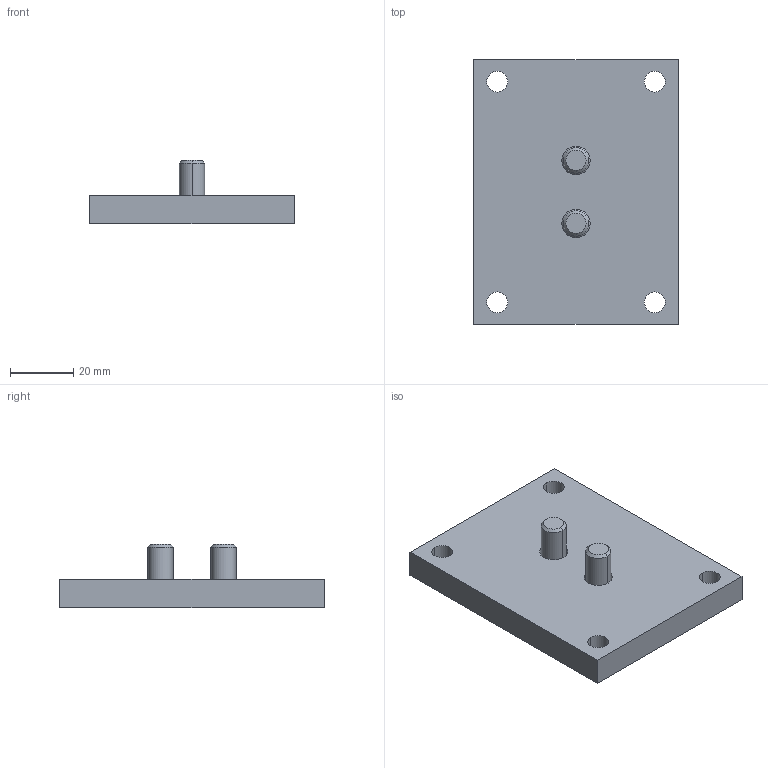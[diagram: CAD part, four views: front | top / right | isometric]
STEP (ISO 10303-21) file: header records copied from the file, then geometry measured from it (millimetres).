
FILE_DESCRIPTION(/* description */ (''),/* implementation_level */ '2;1');
FILE_NAME(/* name */ '3d_hm-63_04131_r00.stp',/* time_stamp */ '2011-01-10T14:14:42+09:00',/* author */ ('MISUMI'),/* organization */ (''),/* preprocessor_version */ 'ST-DEVELOPER v11',/* originating_system */ 'UGS - NX 5.0',/* authorisation */ '');
FILE_SCHEMA (('CONFIG_CONTROL_DESIGN'));
Length unit declared in the file: millimetre
Products named in the file (1): 3d_hm-63_04131_r00
Bounding box: 65 x 84 x 20 mm (x, y, z)
Volume: 48729 mm3; surface area: 16057.3 mm2
Topology: 3 solids, 3 shells, 52 faces, 120 edges, 76 vertices
Faces by surface type: plane 24, cylinder 16, cone 12
Entity records: 1578 total; most frequent: DIRECTION 270, CARTESIAN_POINT 249, ORIENTED_EDGE 240, EDGE_CURVE 120, AXIS2_PLACEMENT_3D 97, VERTEX_POINT 76, LINE 76, VECTOR 76
